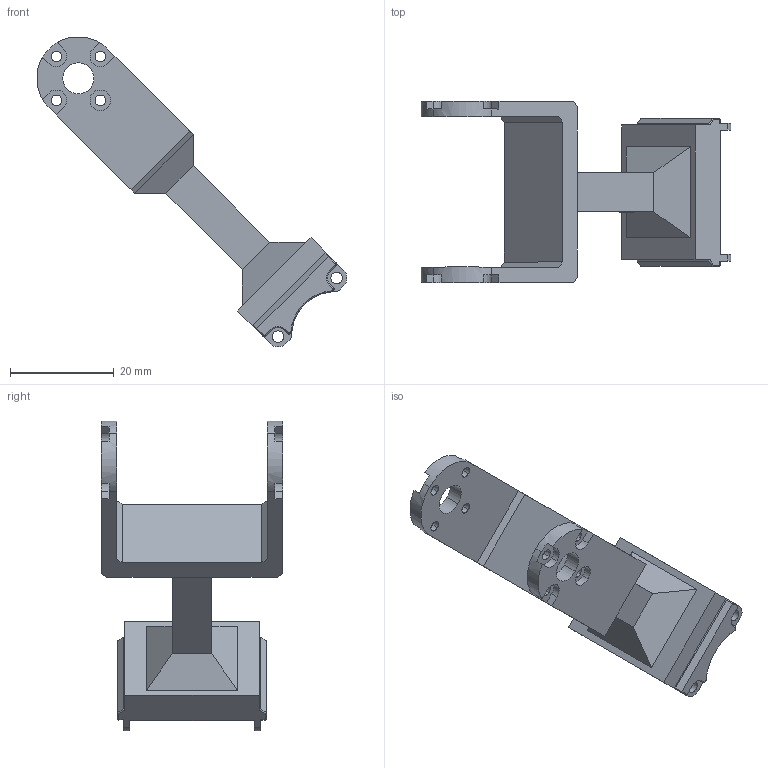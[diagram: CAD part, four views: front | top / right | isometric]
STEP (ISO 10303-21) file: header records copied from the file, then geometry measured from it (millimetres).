
FILE_DESCRIPTION (( 'STEP AP214' ), '1' );
FILE_NAME ('thumb_3.STEP', '2026-09-17T12:55:13', ( '' ), ( '' ), 'SwSTEP 2.0', 'SolidWorks 2024', '' );
FILE_SCHEMA (( 'AUTOMOTIVE_DESIGN' ));
Length unit declared in the file: millimetre
Products named in the file (2): 零件1^连杆装配体大拇指_默认; thumb_3
Assembly tree (1 placements, depth 2):
  thumb_3
    零件1^连杆装配体大拇指_默认
Bounding box: 59.82 x 35 x 59.82 mm (x, y, z)
Volume: 10872.8 mm3; surface area: 6276.4 mm2
Topology: 1 solids, 1 shells, 187 faces, 504 edges, 322 vertices
Faces by surface type: plane 103, cylinder 66, cone 18
Entity records: 5963 total; most frequent: DIRECTION 1056, CARTESIAN_POINT 1017, ORIENTED_EDGE 1008, EDGE_CURVE 504, AXIS2_PLACEMENT_3D 361, VECTOR 334, LINE 334, VERTEX_POINT 322
